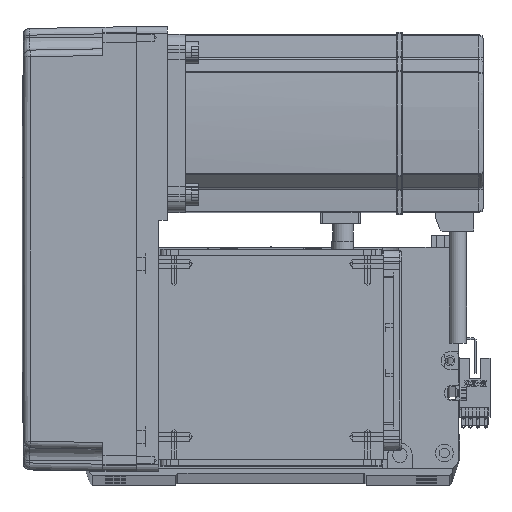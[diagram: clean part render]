
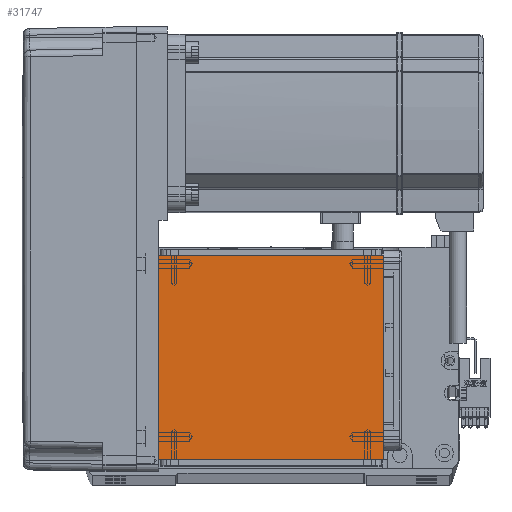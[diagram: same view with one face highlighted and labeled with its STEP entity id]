
A CAD part, top view. The second image highlights one B-rep face of the part: STEP entity #31747.
In plain terms, the highlighted planar face has unit normal (0, 0, 1).
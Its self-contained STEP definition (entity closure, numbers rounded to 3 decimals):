
#24 = CARTESIAN_POINT ( 'NONE',  ( -70.004, 111.5, 115. ) ) ;
#1146 = VERTEX_POINT ( 'NONE', #62461 ) ;
#6075 = VECTOR ( 'NONE', #29623, 1000. ) ;
#6577 = EDGE_CURVE ( 'NONE', #30535, #58028, #60967, .T. ) ;
#6791 = LINE ( 'NONE', #43805, #6075 ) ;
#7170 = ORIENTED_EDGE ( 'NONE', *, *, #6577, .T. ) ;
#13387 = PLANE ( 'NONE',  #21680 ) ;
#17821 = EDGE_CURVE ( 'NONE', #37547, #58028, #52948, .T. ) ;
#18549 = ORIENTED_EDGE ( 'NONE', *, *, #17821, .F. ) ;
#21680 = AXIS2_PLACEMENT_3D ( 'NONE', #57790, #53428, #58650 ) ;
#22755 = ORIENTED_EDGE ( 'NONE', *, *, #23728, .T. ) ;
#23728 = EDGE_CURVE ( 'NONE', #37547, #1146, #30482, .T. ) ;
#23883 = CARTESIAN_POINT ( 'NONE',  ( 50.5, 122., 115. ) ) ;
#24333 = DIRECTION ( 'NONE',  ( 0., 1., 0. ) ) ;
#27110 = DIRECTION ( 'NONE',  ( 0., -1., 0. ) ) ;
#28112 = ORIENTED_EDGE ( 'NONE', *, *, #38640, .F. ) ;
#29096 = DIRECTION ( 'NONE',  ( 1., 0., 0. ) ) ;
#29623 = DIRECTION ( 'NONE',  ( -1., 0., 0. ) ) ;
#30394 = VECTOR ( 'NONE', #29096, 1000. ) ;
#30482 = LINE ( 'NONE', #47170, #46840 ) ;
#30535 = VERTEX_POINT ( 'NONE', #48563 ) ;
#31747 = ADVANCED_FACE ( 'NONE', ( #43531 ), #13387, .T. ) ;
#35869 = EDGE_LOOP ( 'NONE', ( #18549, #22755, #28112, #7170 ) ) ;
#37547 = VERTEX_POINT ( 'NONE', #43237 ) ;
#37696 = VECTOR ( 'NONE', #24333, 1000. ) ;
#38640 = EDGE_CURVE ( 'NONE', #30535, #1146, #6791, .T. ) ;
#43237 = CARTESIAN_POINT ( 'NONE',  ( -50.5, 111.5, 115. ) ) ;
#43531 = FACE_OUTER_BOUND ( 'NONE', #35869, .T. ) ;
#43805 = CARTESIAN_POINT ( 'NONE',  ( -70.004, 20., 115. ) ) ;
#44692 = CARTESIAN_POINT ( 'NONE',  ( 50.5, 111.5, 115. ) ) ;
#46840 = VECTOR ( 'NONE', #27110, 1000. ) ;
#47170 = CARTESIAN_POINT ( 'NONE',  ( -50.5, 122., 115. ) ) ;
#48563 = CARTESIAN_POINT ( 'NONE',  ( 50.5, 20., 115. ) ) ;
#52948 = LINE ( 'NONE', #24, #30394 ) ;
#53428 = DIRECTION ( 'NONE',  ( 0., 0., 1. ) ) ;
#57790 = CARTESIAN_POINT ( 'NONE',  ( 0., 0., 115. ) ) ;
#58028 = VERTEX_POINT ( 'NONE', #44692 ) ;
#58650 = DIRECTION ( 'NONE',  ( 1., 0., 0. ) ) ;
#60967 = LINE ( 'NONE', #23883, #37696 ) ;
#62461 = CARTESIAN_POINT ( 'NONE',  ( -50.5, 20., 115. ) ) ;
